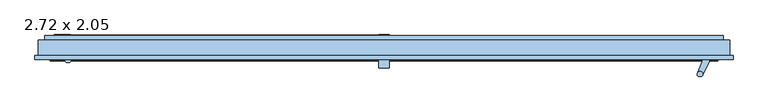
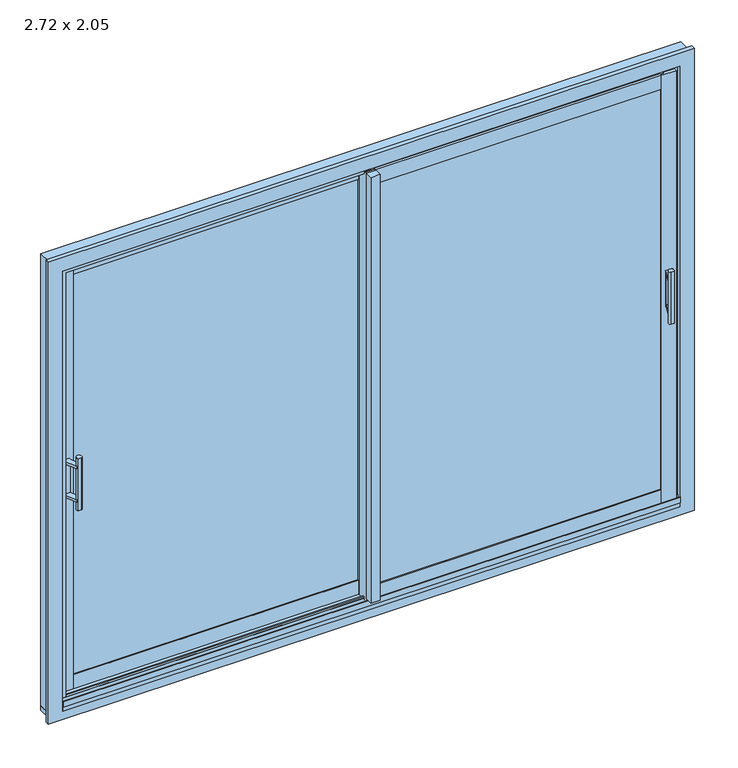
"""IFC4 building model written with IfcOpenShell, lengths in millimetres: window geometry, K-LINE COULISSANT applique-KLBC2R-2V : 2.72 x 2.05."""

from ifc_helpers import new_model, si_unit, frame, origin, origin_with_axes, place, context, project, spatial, polyline, circle_curve, outline, extrude, faceted_brep, source, transform, mapped, element, save
from ifc_brep_helpers import plane_surface, cylinder_surface, advanced_brep


def window_2_72_x_2_05_d5d4948e(model_context):
    return source(origin(), model_context, "Body", "SolidModel", [
        extrude(outline(polyline([(1249.7, -52.25), (5.0, -52.25), (5.0, -24.25), (1249.7, -24.25), (1249.7, -52.25)])), frame((0.0, 0.0, 112.0), z_axis=(0.0, 0.0, 1.0), x_axis=(1.0, 0.0, 0.0)), (0.0, 0.0, 1.0), 1829.0),
        advanced_brep(
        [(1279.7, -60.0, 1106.5), (1251.7, -60.0, 1106.5), (1251.7, -67.0, 1106.5), (1234.4130019, -110.2519585, 1106.5), (1253.8288485, -119.4273049, 1106.5), (1279.7, -67.0, 1106.5), (1279.7, -60.0, 946.5), (1279.7, -67.0, 946.5), (1253.8288485, -119.4273049, 946.5), (1234.4130019, -110.2519585, 946.5), (1251.7, -67.0, 946.5), (1251.7, -60.0, 946.5), (1251.7, -67.0, 957.3), (1251.7, -67.0, 1095.7), (1279.7, -67.0, 957.3), (1279.7, -67.0, 1095.7), (1253.8288485, -119.4273049, 957.3), (1234.4130019, -110.2519585, 957.3), (1234.4130019, -110.2519585, 1095.7), (1253.8288485, -119.4273049, 1095.7), (1235.5501656, -125.0, 1143.5), (1250.6498344, -125.0, 1143.5), (1235.5501656, -125.0, 909.5), (1250.6498344, -125.0, 909.5)],
        [
            (0, 1),
            (1, 2),
            (2, 3),
            (3, 4, circle_curve(frame((1243.1, -117.0, 1106.5), z_axis=(0.0, 0.0, -1.0), x_axis=(1.0, 0.0, 0.0)), 11.0)),
            (4, 5),
            (5, 0),
            (6, 7),
            (7, 8),
            (8, 9, circle_curve(frame((1243.1, -117.0, 946.5), z_axis=(0.0, 0.0, 1.0), x_axis=(1.0, 0.0, 0.0)), 11.0)),
            (9, 10),
            (10, 11),
            (11, 6),
            (0, 6),
            (11, 1),
            (10, 12),
            (12, 13),
            (13, 2),
            (12, 14),
            (14, 15),
            (15, 13),
            (5, 15),
            (14, 7),
            (16, 14),
            (12, 17),
            (17, 16, circle_curve(frame((1243.1, -117.0, 957.3), z_axis=(0.0, 0.0, -1.0), x_axis=(1.0, 0.0, 0.0)), 11.0)),
            (16, 8),
            (9, 17),
            (18, 13),
            (15, 19),
            (19, 18, circle_curve(frame((1243.1, -117.0, 1095.7), z_axis=(0.0, 0.0, 1.0), x_axis=(1.0, 0.0, 0.0)), 11.0)),
            (4, 19),
            (18, 3),
            (20, 21),
            (21, 20, circle_curve(frame((1243.1, -117.0, 1143.5), z_axis=(0.0, 0.0, 1.0), x_axis=(1.0, 0.0, 0.0)), 11.0)),
            (22, 23, circle_curve(frame((1243.1, -117.0, 909.5), z_axis=(0.0, 0.0, -1.0), x_axis=(1.0, 0.0, 0.0)), 11.0)),
            (23, 22),
            (20, 22),
            (23, 21),
        ],
        [
            plane_surface(frame((1258.2679799, -60.0, 1106.5), z_axis=(0.0, 0.0, 1.0), x_axis=(-1.0, 0.0, 0.0))),
            plane_surface(frame((1258.2679799, -60.0, 946.5), z_axis=(0.0, 0.0, -1.0), x_axis=(1.0, 0.0, 0.0))),
            plane_surface(frame((1279.7, -60.0, 1106.5), z_axis=(0.0, 1.0, 0.0), x_axis=(0.0, 0.0, -1.0))),
            plane_surface(frame((1251.7, -60.0, 1106.5), z_axis=(-1.0, 0.0, 0.0), x_axis=(0.0, 0.0, -1.0))),
            plane_surface(frame((1251.7, -67.0, 1106.5), z_axis=(0.0, -1.0, 0.0), x_axis=(0.0, 0.0, -1.0))),
            plane_surface(frame((1279.7, -67.0, 1106.5), z_axis=(1.0, 0.0, 0.0), x_axis=(0.0, 0.0, -1.0))),
            plane_surface(frame((1254.1, -117.0, 957.3), z_axis=(0.0, 0.0, 1.0), x_axis=(0.0, -1.0, 0.0))),
            plane_surface(frame((1253.8288485, -119.4273049, 957.3), z_axis=(0.8967582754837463, -0.4425207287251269, 0.0), x_axis=(0.0, 0.0, -1.0))),
            plane_surface(frame((1251.7, -67.0, 957.3), z_axis=(-0.9285787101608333, 0.37113552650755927, 0.0), x_axis=(0.0, 0.0, -1.0))),
            plane_surface(frame((1254.1, -117.0, 1095.7), z_axis=(0.0, 0.0, -1.0), x_axis=(0.0, 1.0, 0.0))),
            plane_surface(frame((1253.8288485, -119.4273049, 1106.5), z_axis=(0.8967582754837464, -0.44252072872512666, 0.0), x_axis=(0.0, 0.0, -1.0))),
            plane_surface(frame((1251.7, -67.0, 1106.5), z_axis=(-0.9285787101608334, 0.37113552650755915, 0.0), x_axis=(0.0, 0.0, -1.0))),
            plane_surface(frame((1235.5501656, -125.0, 1143.5), z_axis=(0.0, 0.0, 1.0), x_axis=(1.0, 0.0, 0.0))),
            plane_surface(frame((1235.5501656, -125.0, 909.5), z_axis=(0.0, 0.0, -1.0), x_axis=(-1.0, 0.0, 0.0))),
            plane_surface(frame((1235.5501656, -125.0, 1143.5), z_axis=(0.0, -1.0, 0.0), x_axis=(0.0, 0.0, -1.0))),
            cylinder_surface(frame((1243.1, -117.0, 909.5), z_axis=(0.0, 0.0, 1.0), x_axis=(1.0, 0.0, 0.0)), 11.0),
        ],
        [
            (0, [[1, 2, 3, 4, 5, 6]]),
            (1, [[7, 8, 9, 10, 11, 12]]),
            (2, [[-1, 13, -12, 14]]),
            (3, [[-2, -14, -11, 15, 16, 17]]),
            (4, [[18, 19, 20, -16]]),
            (5, [[-6, 21, -19, 22, -7, -13]]),
            (6, [[23, -18, 24, 25]]),
            (7, [[-23, 26, -8, -22]]),
            (8, [[-24, -15, -10, 27]]),
            (9, [[28, -20, 29, 30]]),
            (10, [[-5, 31, -29, -21]]),
            (11, [[-3, -17, -28, 32]]),
            (12, [[33, 34]]),
            (13, [[35, 36]]),
            (14, [[-33, 37, -36, 38]]),
            (15, [[-34, -38, -35, -37], [-4, -32, -30, -31], [-9, -26, -25, -27]]),
        ],
    ),
        extrude(outline(polyline([(20.0, -92.0), (-20.0, -92.0), (-20.0, -60.0), (20.0, -60.0), (20.0, -92.0)])), frame((0.0, 0.0, 77.0), z_axis=(0.0, 0.0, 1.0), x_axis=(1.0, 0.0, 0.0)), (0.0, 0.0, 1.0), 1912.0),
        faceted_brep([(0.0, -10.0, 1989.0), (-17.0, -10.0, 1989.0), (-17.0, -30.25, 1989.0), (5.0, -30.25, 1989.0), (5.0, -24.25, 1989.0), (20.0, -24.25, 1989.0), (20.0, -16.5, 1989.0), (0.0, -16.5, 1989.0), (5.0, -52.25, 1989.0), (5.0, -46.25, 1989.0), (-17.0, -46.25, 1989.0), (-17.0, -52.25, 1989.0), (0.0, -10.0, 64.0), (0.0, -16.5, 64.0), (20.0, -16.5, 64.0), (20.0, -24.25, 64.0), (5.0, -24.25, 64.0), (5.0, -30.25, 64.0), (-17.0, -30.25, 64.0), (-17.0, -10.0, 64.0), (-17.0, -52.25, 64.0), (-17.0, -46.25, 64.0), (5.0, -46.25, 64.0), (5.0, -52.25, 64.0), (5.0, -30.25, 1976.0), (5.0, -46.25, 1976.0), (5.0, -46.25, 77.0), (5.0, -30.25, 77.0), (-17.0, -46.25, 1976.0), (-17.0, -30.25, 1976.0), (-17.0, -30.25, 77.0), (-17.0, -46.25, 77.0)], [[[0, 1, 2, 3, 4, 5, 6, 7]], [[8, 9, 10, 11]], [[12, 13, 14, 15, 16, 17, 18, 19]], [[20, 21, 22, 23]], [[7, 13, 12, 0]], [[6, 14, 13, 7]], [[5, 15, 14, 6]], [[4, 16, 15, 5]], [[4, 3, 24, 25, 9, 8, 23, 22, 26, 27, 17, 16]], [[11, 20, 23, 8]], [[11, 10, 28, 29, 2, 1, 19, 18, 30, 31, 21, 20]], [[0, 12, 19, 1]], [[31, 30, 27, 26]], [[30, 18, 17, 27]], [[26, 22, 21, 31]], [[28, 10, 9, 25]], [[24, 3, 2, 29]], [[25, 24, 29, 28]]]),
        faceted_brep([(-17.0, -52.25, 1989.0), (-17.0, -46.25, 1989.0), (-20.0, -46.25, 1989.0), (-20.0, -60.0, 1989.0), (20.0, -60.0, 1989.0), (20.0, -52.25, 1989.0), (-20.0, -10.0, 1989.0), (-20.0, -30.25, 1989.0), (-17.0, -30.25, 1989.0), (-17.0, -10.0, 1989.0), (-17.0, -10.0, 64.0), (-17.0, -30.25, 64.0), (-20.0, -30.25, 64.0), (-20.0, -10.0, 64.0), (-20.0, -60.0, 64.0), (-20.0, -46.25, 64.0), (-17.0, -46.25, 64.0), (-17.0, -52.25, 64.0), (20.0, -52.25, 64.0), (20.0, -60.0, 64.0), (-20.0, -30.25, 77.0), (-20.0, -46.25, 77.0), (-20.0, -46.25, 1976.0), (-20.0, -30.25, 1976.0), (-17.0, -30.25, 1976.0), (-17.0, -46.25, 1976.0), (-17.0, -46.25, 77.0), (-17.0, -30.25, 77.0)], [[[0, 1, 2, 3, 4, 5]], [[6, 7, 8, 9]], [[10, 11, 12, 13]], [[14, 15, 16, 17, 18, 19]], [[9, 10, 13, 6]], [[13, 12, 20, 21, 15, 14, 3, 2, 22, 23, 7, 6]], [[3, 14, 19, 4]], [[4, 19, 18, 5]], [[5, 18, 17, 0]], [[9, 8, 24, 25, 1, 0, 17, 16, 26, 27, 11, 10]], [[21, 20, 27, 26]], [[20, 12, 11, 27]], [[26, 16, 15, 21]], [[22, 2, 1, 25]], [[24, 8, 7, 23]], [[25, 24, 23, 22]]]),
        extrude(outline(polyline([(-58.25, 64.0), (-58.25, 126.0), (-52.25, 126.0), (-52.25, 112.0), (-38.25, 112.0), (-38.25, 77.0), (-46.25, 77.0), (-46.25, 64.0), (-58.25, 64.0)])), frame((20.0, 0.0, 0.0), z_axis=(1.0, 0.0, 0.0), x_axis=(0.0, 1.0, 0.0)), (0.0, 0.0, 1.0), 1214.7),
        extrude(outline(polyline([(-58.25, 1989.0), (-46.25, 1989.0), (-46.25, 1976.0), (-38.25, 1976.0), (-38.25, 1941.0), (-52.25, 1941.0), (-52.25, 1927.0), (-58.25, 1927.0), (-58.25, 1989.0)])), frame((20.0, 0.0, 0.0), z_axis=(1.0, 0.0, 0.0), x_axis=(0.0, 1.0, 0.0)), (0.0, 0.0, 1.0), 1214.7),
        faceted_brep([(1297.2, -16.5, 1989.0), (1234.7, -16.5, 1989.0), (1234.7, -24.25, 1989.0), (1249.7, -24.25, 1989.0), (1249.7, -30.25, 1989.0), (1297.2, -30.25, 1989.0), (1297.2, -16.5, 64.0), (1297.2, -30.25, 64.0), (1249.7, -30.25, 64.0), (1249.7, -24.25, 64.0), (1234.7, -24.25, 64.0), (1234.7, -16.5, 64.0), (1249.7, -30.25, 77.0), (1249.7, -38.25, 77.0), (1249.7, -38.25, 1976.0), (1249.7, -30.25, 1976.0), (1284.2, -38.25, 77.0), (1284.2, -38.25, 1976.0), (1284.2, -30.25, 77.0), (1284.2, -30.25, 1976.0)], [[[0, 1, 2, 3, 4, 5]], [[6, 7, 8, 9, 10, 11]], [[0, 6, 11, 1]], [[1, 11, 10, 2]], [[2, 10, 9, 3]], [[9, 8, 12, 13, 14, 15, 4, 3]], [[13, 16, 17, 14]], [[16, 18, 19, 17]], [[8, 7, 5, 4, 15, 19, 18, 12]], [[7, 6, 0, 5]], [[18, 16, 13, 12]], [[15, 14, 17, 19]]]),
        faceted_brep([(1297.2, -60.0, 1989.0), (1297.2, -46.25, 1989.0), (1249.7, -46.25, 1989.0), (1249.7, -52.25, 1989.0), (1234.7, -52.25, 1989.0), (1234.7, -60.0, 1989.0), (1297.2, -60.0, 64.0), (1234.7, -60.0, 64.0), (1234.7, -52.25, 64.0), (1249.7, -52.25, 64.0), (1249.7, -46.25, 64.0), (1297.2, -46.25, 64.0), (1249.7, -46.25, 1976.0), (1249.7, -38.25, 1976.0), (1249.7, -38.25, 77.0), (1249.7, -46.25, 77.0), (1284.2, -38.25, 1976.0), (1284.2, -38.25, 77.0), (1284.2, -46.25, 1976.0), (1284.2, -46.25, 77.0)], [[[0, 1, 2, 3, 4, 5]], [[6, 7, 8, 9, 10, 11]], [[5, 7, 6, 0]], [[4, 8, 7, 5]], [[3, 9, 8, 4]], [[3, 2, 12, 13, 14, 15, 10, 9]], [[13, 16, 17, 14]], [[16, 18, 19, 17]], [[2, 1, 11, 10, 15, 19, 18, 12]], [[0, 6, 11, 1]], [[15, 14, 17, 19]], [[18, 16, 13, 12]]]),
        extrude(outline(polyline([(-18.25, 64.0), (-30.25, 64.0), (-30.25, 77.0), (-38.25, 77.0), (-38.25, 112.0), (-24.25, 112.0), (-24.25, 126.0), (-18.25, 126.0), (-18.25, 64.0)])), frame((20.0, 0.0, 0.0), z_axis=(1.0, 0.0, 0.0), x_axis=(0.0, 1.0, 0.0)), (0.0, 0.0, 1.0), 1214.7),
        extrude(outline(polyline([(-18.25, 1989.0), (-18.25, 1927.0), (-24.25, 1927.0), (-24.25, 1941.0), (-38.25, 1941.0), (-38.25, 1976.0), (-30.25, 1976.0), (-30.25, 1989.0), (-18.25, 1989.0)])), frame((20.0, 0.0, 0.0), z_axis=(1.0, 0.0, 0.0), x_axis=(0.0, 1.0, 0.0)), (0.0, 0.0, 1.0), 1214.7),
        extrude(outline(polyline([(-1249.7, 2.75), (-1249.7, 30.75), (-5.0, 30.75), (-5.0, 2.75), (-1249.7, 2.75)])), frame((0.0, 0.0, 112.0), z_axis=(0.0, 0.0, 1.0), x_axis=(1.0, 0.0, 0.0)), (0.0, 0.0, 1.0), 1829.0),
        advanced_brep(
        [(-1279.7, -5.0, 1106.5), (-1279.7, -12.0, 1106.5), (-1253.8288485, -64.4273049, 1106.5), (-1234.4130019, -55.2519585, 1106.5), (-1251.7, -12.0, 1106.5), (-1251.7, -5.0, 1106.5), (-1279.7, -5.0, 946.5), (-1251.7, -5.0, 946.5), (-1251.7, -12.0, 946.5), (-1234.4130019, -55.2519585, 946.5), (-1253.8288485, -64.4273049, 946.5), (-1279.7, -12.0, 946.5), (-1251.7, -12.0, 1095.7), (-1251.7, -12.0, 957.3), (-1279.7, -12.0, 1095.7), (-1279.7, -12.0, 957.3), (-1253.8288485, -64.4273049, 957.3), (-1234.4130019, -55.2519585, 957.3), (-1234.4130019, -55.2519585, 1095.7), (-1253.8288485, -64.4273049, 1095.7), (-1235.5501656, -70.0, 1143.5), (-1250.6498344, -70.0, 1143.5), (-1235.5501656, -70.0, 909.5), (-1250.6498344, -70.0, 909.5)],
        [
            (0, 1),
            (1, 2),
            (2, 3, circle_curve(frame((-1243.1, -62.0, 1106.5), z_axis=(0.0, 0.0, -1.0), x_axis=(-1.0, 0.0, 0.0)), 11.0)),
            (3, 4),
            (4, 5),
            (5, 0),
            (6, 7),
            (7, 8),
            (8, 9),
            (9, 10, circle_curve(frame((-1243.1, -62.0, 946.5), z_axis=(0.0, 0.0, 1.0), x_axis=(-1.0, 0.0, 0.0)), 11.0)),
            (10, 11),
            (11, 6),
            (5, 7),
            (6, 0),
            (4, 12),
            (12, 13),
            (13, 8),
            (12, 14),
            (14, 15),
            (15, 13),
            (11, 15),
            (14, 1),
            (16, 17, circle_curve(frame((-1243.1, -62.0, 957.3), z_axis=(0.0, 0.0, -1.0), x_axis=(-1.0, 0.0, 0.0)), 11.0)),
            (17, 13),
            (15, 16),
            (10, 16),
            (17, 9),
            (18, 19, circle_curve(frame((-1243.1, -62.0, 1095.7), z_axis=(0.0, 0.0, 1.0), x_axis=(-1.0, 0.0, 0.0)), 11.0)),
            (19, 14),
            (12, 18),
            (19, 2),
            (3, 18),
            (20, 21, circle_curve(frame((-1243.1, -62.0, 1143.5), z_axis=(0.0, 0.0, 1.0), x_axis=(-1.0, 0.0, 0.0)), 11.0)),
            (21, 20),
            (22, 23),
            (23, 22, circle_curve(frame((-1243.1, -62.0, 909.5), z_axis=(0.0, 0.0, -1.0), x_axis=(-1.0, 0.0, 0.0)), 11.0)),
            (21, 23),
            (22, 20),
        ],
        [
            plane_surface(frame((-1258.2679799, -5.0, 1106.5), z_axis=(0.0, 0.0, 1.0), x_axis=(1.0, 0.0, 0.0))),
            plane_surface(frame((-1258.2679799, -5.0, 946.5), z_axis=(0.0, 0.0, -1.0), x_axis=(-1.0, 0.0, 0.0))),
            plane_surface(frame((-1279.7, -5.0, 1106.5), z_axis=(0.0, 1.0, 0.0), x_axis=(0.0, 0.0, -1.0))),
            plane_surface(frame((-1251.7, -5.0, 1106.5), z_axis=(1.0, 0.0, 0.0), x_axis=(0.0, 0.0, -1.0))),
            plane_surface(frame((-1251.7, -12.0, 1106.5), z_axis=(0.0, -1.0, 0.0), x_axis=(0.0, 0.0, -1.0))),
            plane_surface(frame((-1279.7, -12.0, 1106.5), z_axis=(-1.0, 0.0, 0.0), x_axis=(0.0, 0.0, -1.0))),
            plane_surface(frame((-1254.1, -62.0, 957.3), z_axis=(0.0, 0.0, 1.0), x_axis=(0.0, -1.0, 0.0))),
            plane_surface(frame((-1253.8288485, -64.4273049, 957.3), z_axis=(-0.8967582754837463, -0.4425207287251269, 0.0), x_axis=(0.0, 0.0, -1.0))),
            plane_surface(frame((-1251.7, -12.0, 957.3), z_axis=(0.9285787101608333, 0.37113552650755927, 0.0), x_axis=(0.0, 0.0, -1.0))),
            plane_surface(frame((-1254.1, -62.0, 1095.7), z_axis=(0.0, 0.0, -1.0), x_axis=(0.0, 1.0, 0.0))),
            plane_surface(frame((-1253.8288485, -64.4273049, 1106.5), z_axis=(-0.8967582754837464, -0.44252072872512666, 0.0), x_axis=(0.0, 0.0, -1.0))),
            plane_surface(frame((-1251.7, -12.0, 1106.5), z_axis=(0.9285787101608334, 0.37113552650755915, 0.0), x_axis=(0.0, 0.0, -1.0))),
            plane_surface(frame((-1235.5501656, -70.0, 1143.5), z_axis=(0.0, 0.0, 1.0), x_axis=(-1.0, 0.0, 0.0))),
            plane_surface(frame((-1235.5501656, -70.0, 909.5), z_axis=(0.0, 0.0, -1.0), x_axis=(1.0, 0.0, 0.0))),
            plane_surface(frame((-1235.5501656, -70.0, 1143.5), z_axis=(0.0, -1.0, 0.0), x_axis=(0.0, 0.0, -1.0))),
            cylinder_surface(frame((-1243.1, -62.0, 909.5), z_axis=(0.0, 0.0, 1.0), x_axis=(-1.0, 0.0, 0.0)), 11.0),
        ],
        [
            (0, [[1, 2, 3, 4, 5, 6]]),
            (1, [[7, 8, 9, 10, 11, 12]]),
            (2, [[13, -7, 14, -6]]),
            (3, [[15, 16, 17, -8, -13, -5]]),
            (4, [[-16, 18, 19, 20]]),
            (5, [[-14, -12, 21, -19, 22, -1]]),
            (6, [[23, 24, -20, 25]]),
            (7, [[-21, -11, 26, -25]]),
            (8, [[27, -9, -17, -24]]),
            (9, [[28, 29, -18, 30]]),
            (10, [[-22, -29, 31, -2]]),
            (11, [[32, -30, -15, -4]]),
            (12, [[33, 34]]),
            (13, [[35, 36]]),
            (14, [[37, -35, 38, -34]]),
            (15, [[-38, -36, -37, -33], [-27, -23, -26, -10], [-31, -28, -32, -3]]),
        ],
    ),
        extrude(outline(polyline([(-3.25, 64.0), (-3.25, 126.0), (2.75, 126.0), (2.75, 112.0), (16.75, 112.0), (16.75, 77.0), (8.75, 77.0), (8.75, 64.0), (-3.25, 64.0)])), frame((-1234.7, 0.0, 0.0), z_axis=(1.0, 0.0, 0.0), x_axis=(0.0, 1.0, 0.0)), (0.0, 0.0, 1.0), 1214.7),
        extrude(outline(polyline([(-3.25, 1989.0), (8.75, 1989.0), (8.75, 1976.0), (16.75, 1976.0), (16.75, 1941.0), (2.75, 1941.0), (2.75, 1927.0), (-3.25, 1927.0), (-3.25, 1989.0)])), frame((-1234.7, 0.0, 0.0), z_axis=(1.0, 0.0, 0.0), x_axis=(0.0, 1.0, 0.0)), (0.0, 0.0, 1.0), 1214.7),
        faceted_brep([(-1297.2, 38.5, 1989.0), (-1297.2, 24.75, 1989.0), (-1249.7, 24.75, 1989.0), (-1249.7, 30.75, 1989.0), (-1234.7, 30.75, 1989.0), (-1234.7, 38.5, 1989.0), (-1297.2, 38.5, 64.0), (-1234.7, 38.5, 64.0), (-1234.7, 30.75, 64.0), (-1249.7, 30.75, 64.0), (-1249.7, 24.75, 64.0), (-1297.2, 24.75, 64.0), (-1249.7, 24.75, 1976.0), (-1249.7, 16.75, 1976.0), (-1249.7, 16.75, 77.0), (-1249.7, 24.75, 77.0), (-1284.2, 16.75, 1976.0), (-1284.2, 16.75, 77.0), (-1284.2, 24.75, 1976.0), (-1284.2, 24.75, 77.0)], [[[0, 1, 2, 3, 4, 5]], [[6, 7, 8, 9, 10, 11]], [[0, 5, 7, 6]], [[5, 4, 8, 7]], [[4, 3, 9, 8]], [[9, 3, 2, 12, 13, 14, 15, 10]], [[14, 13, 16, 17]], [[17, 16, 18, 19]], [[10, 15, 19, 18, 12, 2, 1, 11]], [[11, 1, 0, 6]], [[19, 15, 14, 17]], [[12, 18, 16, 13]]]),
        faceted_brep([(-1297.2, -5.0, 1989.0), (-1234.7, -5.0, 1989.0), (-1234.7, 2.75, 1989.0), (-1249.7, 2.75, 1989.0), (-1249.7, 8.75, 1989.0), (-1297.2, 8.75, 1989.0), (-1297.2, -5.0, 64.0), (-1297.2, 8.75, 64.0), (-1249.7, 8.75, 64.0), (-1249.7, 2.75, 64.0), (-1234.7, 2.75, 64.0), (-1234.7, -5.0, 64.0), (-1249.7, 8.75, 77.0), (-1249.7, 16.75, 77.0), (-1249.7, 16.75, 1976.0), (-1249.7, 8.75, 1976.0), (-1284.2, 16.75, 77.0), (-1284.2, 16.75, 1976.0), (-1284.2, 8.75, 77.0), (-1284.2, 8.75, 1976.0)], [[[0, 1, 2, 3, 4, 5]], [[6, 7, 8, 9, 10, 11]], [[1, 0, 6, 11]], [[2, 1, 11, 10]], [[3, 2, 10, 9]], [[3, 9, 8, 12, 13, 14, 15, 4]], [[14, 13, 16, 17]], [[17, 16, 18, 19]], [[4, 15, 19, 18, 12, 8, 7, 5]], [[0, 5, 7, 6]], [[12, 18, 16, 13]], [[19, 15, 14, 17]]]),
        faceted_brep([(0.0, -11.5, 1989.0), (17.0, -11.5, 1989.0), (17.0, 8.75, 1989.0), (-5.0, 8.75, 1989.0), (-5.0, 2.75, 1989.0), (-20.0, 2.75, 1989.0), (-20.0, -5.0, 1989.0), (0.0, -5.0, 1989.0), (17.0, 30.75, 1989.0), (-5.0, 30.75, 1989.0), (-5.0, 24.75, 1989.0), (17.0, 24.75, 1989.0), (0.0, -11.5, 64.0), (0.0, -5.0, 64.0), (-20.0, -5.0, 64.0), (-20.0, 2.75, 64.0), (-5.0, 2.75, 64.0), (-5.0, 8.75, 64.0), (17.0, 8.75, 64.0), (17.0, -11.5, 64.0), (-5.0, 30.75, 64.0), (17.0, 30.75, 64.0), (17.0, 24.75, 64.0), (-5.0, 24.75, 64.0), (17.0, 8.75, 77.0), (17.0, 24.75, 77.0), (17.0, 24.75, 1976.0), (17.0, 8.75, 1976.0), (-5.0, 24.75, 77.0), (-5.0, 8.75, 77.0), (-5.0, 8.75, 1976.0), (-5.0, 24.75, 1976.0)], [[[0, 1, 2, 3, 4, 5, 6, 7]], [[8, 9, 10, 11]], [[12, 13, 14, 15, 16, 17, 18, 19]], [[20, 21, 22, 23]], [[1, 0, 12, 19]], [[1, 19, 18, 24, 25, 22, 21, 8, 11, 26, 27, 2]], [[9, 8, 21, 20]], [[9, 20, 23, 28, 29, 17, 16, 4, 3, 30, 31, 10]], [[5, 4, 16, 15]], [[6, 5, 15, 14]], [[7, 6, 14, 13]], [[0, 7, 13, 12]], [[24, 29, 28, 25]], [[25, 28, 23, 22]], [[29, 24, 18, 17]], [[27, 30, 3, 2]], [[31, 26, 11, 10]], [[30, 27, 26, 31]]]),
        faceted_brep([(17.0, -11.5, 1989.0), (20.0, -11.5, 1989.0), (20.0, 8.75, 1989.0), (17.0, 8.75, 1989.0), (20.0, 38.5, 1989.0), (-20.0, 38.5, 1989.0), (-20.0, 30.75, 1989.0), (17.0, 30.75, 1989.0), (17.0, 24.75, 1989.0), (20.0, 24.75, 1989.0), (17.0, 30.75, 64.0), (-20.0, 30.75, 64.0), (-20.0, 38.5, 64.0), (20.0, 38.5, 64.0), (20.0, 24.75, 64.0), (17.0, 24.75, 64.0), (20.0, -11.5, 64.0), (17.0, -11.5, 64.0), (17.0, 8.75, 64.0), (20.0, 8.75, 64.0), (20.0, 8.75, 77.0), (20.0, 24.75, 77.0), (20.0, 24.75, 1976.0), (20.0, 8.75, 1976.0), (17.0, 8.75, 1976.0), (17.0, 24.75, 1976.0), (17.0, 24.75, 77.0), (17.0, 8.75, 77.0)], [[[0, 1, 2, 3]], [[4, 5, 6, 7, 8, 9]], [[10, 11, 12, 13, 14, 15]], [[16, 17, 18, 19]], [[1, 0, 17, 16]], [[1, 16, 19, 20, 21, 14, 13, 4, 9, 22, 23, 2]], [[5, 4, 13, 12]], [[6, 5, 12, 11]], [[7, 6, 11, 10]], [[17, 0, 3, 24, 25, 8, 7, 10, 15, 26, 27, 18]], [[20, 27, 26, 21]], [[21, 26, 15, 14]], [[27, 20, 19, 18]], [[23, 24, 3, 2]], [[25, 22, 9, 8]], [[24, 23, 22, 25]]]),
        extrude(outline(polyline([(36.75, 64.0), (24.75, 64.0), (24.75, 77.0), (16.75, 77.0), (16.75, 112.0), (30.75, 112.0), (30.75, 126.0), (36.75, 126.0), (36.75, 64.0)])), frame((-1234.7, 0.0, 0.0), z_axis=(1.0, 0.0, 0.0), x_axis=(0.0, 1.0, 0.0)), (0.0, 0.0, 1.0), 1214.7),
        extrude(outline(polyline([(36.75, 1989.0), (36.75, 1927.0), (30.75, 1927.0), (30.75, 1941.0), (16.75, 1941.0), (16.75, 1976.0), (24.75, 1976.0), (24.75, 1989.0), (36.75, 1989.0)])), frame((-1234.7, 0.0, 0.0), z_axis=(1.0, 0.0, 0.0), x_axis=(0.0, 1.0, 0.0)), (0.0, 0.0, 1.0), 1214.7),
        extrude(outline(polyline([(1360.0, 16.75), (1360.0, -43.25), (-1360.0, -43.25), (-1360.0, 16.75), (1360.0, 16.75)])), origin_with_axes(), (0.0, 0.0, 1.0), 20.0),
        extrude(outline(polyline([(20.0, -1360.0), (20.0, -1340.0), (2030.0, -1340.0), (2030.0, 1340.0), (20.0, 1340.0), (20.0, 1360.0), (2050.0, 1360.0), (2050.0, -1360.0), (20.0, -1360.0)])), frame((0.0, -43.25, 0.0), z_axis=(0.0, 1.0, 0.0), x_axis=(0.0, 0.0, 1.0)), (0.0, 0.0, 1.0), 60.0),
        extrude(outline(polyline([(-31.7148472, 25.0), (-60.0, 25.0), (-60.0, 45.8), (-65.0002992, 45.8), (-65.0002992, 70.2), (-63.0002992, 70.2), (-63.0002992, 47.8), (-45.75, 47.8), (-45.75, 71.8), (-31.7148472, 71.8), (-31.7148472, 25.0)])), frame((-1312.2, 0.0, 0.0), z_axis=(1.0, 0.0, 0.0), x_axis=(0.0, 1.0, 0.0)), (0.0, 0.0, 1.0), 2624.4),
        extrude(outline(polyline([(9.25, 58.8), (9.25, 72.5920221), (16.7674344, 74.2973715), (24.25, 72.5999321), (24.25, 71.8), (10.285168, 71.8), (10.285168, 25.0), (-31.7148472, 25.0), (-31.7148472, 71.8), (-45.75, 71.8), (-45.75, 72.6000641), (-38.2325655, 74.2973715), (-30.75, 72.6079369), (-30.75, 58.8), (9.25, 58.8)])), frame((-1288.2, 0.0, 0.0), z_axis=(1.0, 0.0, 0.0), x_axis=(0.0, 1.0, 0.0)), (0.0, 0.0, 1.0), 2576.4),
        extrude(outline(polyline([(25.0, 1301.2), (25.0, 1335.0), (2025.0, 1335.0), (2025.0, -1335.0), (25.0, -1335.0), (25.0, -1301.2), (1991.2, -1301.2), (1991.2, 1301.2), (25.0, 1301.2)])), frame((0.0, -30.75, 0.0), z_axis=(0.0, 1.0, 0.0), x_axis=(0.0, 0.0, 1.0)), (0.0, 0.0, 1.0), 40.0),
        faceted_brep([(1312.2, -45.75, 47.8), (1312.2, -60.0, 47.8), (1312.2, -60.0, 2002.2), (1312.2, -45.75, 2002.2), (1288.2, -30.75, 71.8), (1288.2, -45.75, 71.8), (1288.2, -45.75, 1978.2), (1288.2, -30.75, 1978.2), (1335.0, -43.25, 25.0), (1335.0, -30.75, 25.0), (1335.0, -30.75, 2025.0), (1335.0, -43.25, 2025.0), (-1312.2, -60.0, 2002.2), (-1312.2, -45.75, 2002.2), (-1288.2, -45.75, 1978.2), (-1288.2, -30.75, 1978.2), (-1335.0, -30.75, 2025.0), (-1335.0, -43.25, 2025.0), (-1312.2, -60.0, 47.8), (-1312.2, -45.75, 47.8), (-1288.2, -45.75, 71.8), (-1288.2, -30.75, 71.8), (-1335.0, -30.75, 25.0), (-1335.0, -43.25, 25.0), (1373.0, -60.0, 2063.0), (-1373.0, -60.0, 2063.0), (-1373.0, -60.0, -13.0), (1373.0, -60.0, -13.0), (1373.0, -43.25, 2063.0), (-1373.0, -43.25, 2063.0), (-1373.0, -43.25, -13.0), (1373.0, -43.25, -13.0)], [[[0, 1, 2, 3]], [[4, 5, 6, 7]], [[8, 9, 10, 11]], [[3, 2, 12, 13]], [[7, 6, 14, 15]], [[11, 10, 16, 17]], [[13, 12, 18, 19]], [[15, 14, 20, 21]], [[17, 16, 22, 23]], [[19, 18, 1, 0]], [[3, 13, 19, 0], [5, 20, 14, 6]], [[21, 20, 5, 4]], [[9, 22, 16, 10], [7, 15, 21, 4]], [[23, 22, 9, 8]], [[24, 25, 26, 27], [1, 18, 12, 2]], [[24, 28, 29, 25]], [[25, 29, 30, 26]], [[26, 30, 31, 27]], [[28, 31, 30, 29], [17, 23, 8, 11]], [[27, 31, 28, 24]]]),
        faceted_brep([(1314.2, 11.7499771, 45.8), (1314.2, 24.25, 45.8), (1314.2, 24.25, 2004.2), (1314.2, 11.7499771, 2004.2), (1324.2, 34.25, 35.8), (1324.2, 11.7499771, 35.8), (1324.2, 11.7499771, 2014.2), (1324.2, 34.25, 2014.2), (1335.0, 9.25, 25.0), (1335.0, 34.25, 25.0), (1335.0, 34.25, 2025.0), (1335.0, 9.25, 2025.0), (1288.2, 24.25, 71.8), (1288.2, 9.25, 71.8), (1288.2, 9.25, 1978.2), (1288.2, 24.25, 1978.2), (-1314.2, 24.25, 2004.2), (-1314.2, 11.7499771, 2004.2), (-1324.2, 11.7499771, 2014.2), (-1324.2, 34.25, 2014.2), (-1335.0, 34.25, 2025.0), (-1335.0, 9.25, 2025.0), (-1288.2, 9.25, 1978.2), (-1288.2, 24.25, 1978.2), (-1314.2, 24.25, 45.8), (-1314.2, 11.7499771, 45.8), (-1324.2, 11.7499771, 35.8), (-1324.2, 34.25, 35.8), (-1335.0, 34.25, 25.0), (-1335.0, 9.25, 25.0), (-1288.2, 9.25, 71.8), (-1288.2, 24.25, 71.8)], [[[0, 1, 2, 3]], [[4, 5, 6, 7]], [[8, 9, 10, 11]], [[12, 13, 14, 15]], [[3, 2, 16, 17]], [[7, 6, 18, 19]], [[11, 10, 20, 21]], [[15, 14, 22, 23]], [[17, 16, 24, 25]], [[19, 18, 26, 27]], [[21, 20, 28, 29]], [[23, 22, 30, 31]], [[25, 24, 1, 0]], [[5, 26, 18, 6], [3, 17, 25, 0]], [[27, 26, 5, 4]], [[9, 28, 20, 10], [7, 19, 27, 4]], [[29, 28, 9, 8]], [[11, 21, 29, 8], [13, 30, 22, 14]], [[31, 30, 13, 12]], [[1, 24, 16, 2], [15, 23, 31, 12]]]),
    ])


if __name__ == "__main__":
    model = new_model("IFC4")
    model_context = context("Model", 3, world=origin())
    ifc_project = project(units=[si_unit("LENGTHUNIT", "METRE", prefix="MILLI")], contexts=[model_context])
    site = spatial("IfcSite", under=ifc_project)
    building = spatial("IfcBuilding", under=site)
    placement = place(None, origin())
    window_2_72_x_2_05_shape = window_2_72_x_2_05_d5d4948e(model_context)
    element("IfcWindow", 1, ObjectType="K-LINE COULISSANT applique-KLBC2R-2V : 2.72 x 2.05", at=placement, inside=building, context=model_context, shape_type="MappedRepresentation", body=[
        mapped(window_2_72_x_2_05_shape, transform((0.0, 0.0, 0.0), x_axis=(1.0, 0.0, 0.0), y_axis=(0.0, 1.0, 0.0), z_axis=(0.0, 0.0, 1.0))),
    ])
    save(model, "model.ifc")
